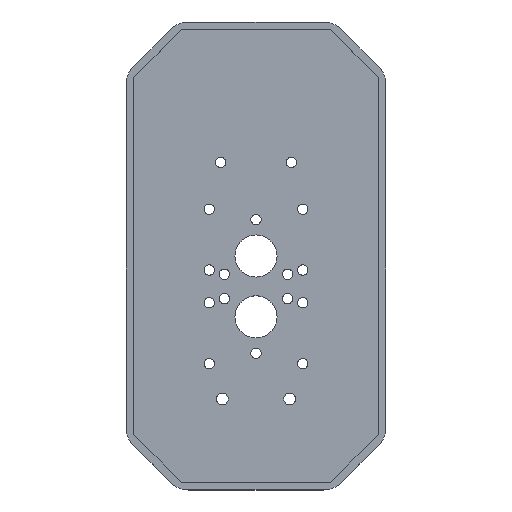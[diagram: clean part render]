
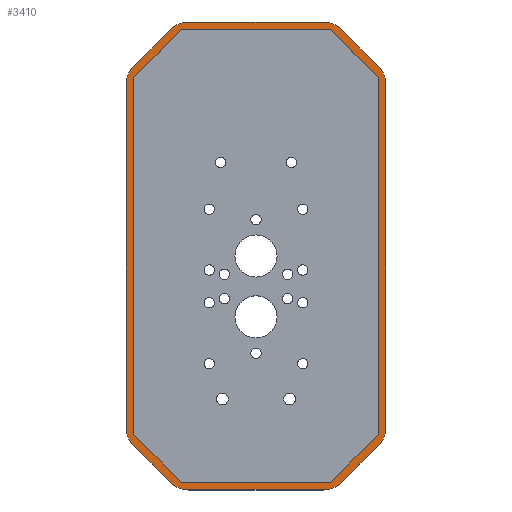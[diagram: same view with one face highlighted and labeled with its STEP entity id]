
A CAD part, top view. The second image highlights one B-rep face of the part: STEP entity #3410.
In plain terms, the highlighted planar face has unit normal (0, 0, 1).
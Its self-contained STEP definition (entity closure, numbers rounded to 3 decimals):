
#1089=DIRECTION('',(1.,0.,0.));
#1090=VECTOR('',#1089,28.757);
#1091=CARTESIAN_POINT('',(-14.379,43.5,4.5));
#1092=LINE('',#1091,#1090);
#1093=DIRECTION('',(0.707,0.707,0.));
#1094=VECTOR('',#1093,12.899);
#1095=CARTESIAN_POINT('',(-23.5,34.379,4.5));
#1096=LINE('',#1095,#1094);
#1097=DIRECTION('',(0.,1.,0.));
#1098=VECTOR('',#1097,68.757);
#1099=CARTESIAN_POINT('',(-23.5,-34.379,4.5));
#1100=LINE('',#1099,#1098);
#1101=DIRECTION('',(-0.707,0.707,0.));
#1102=VECTOR('',#1101,12.899);
#1103=CARTESIAN_POINT('',(-14.379,-43.5,4.5));
#1104=LINE('',#1103,#1102);
#1105=DIRECTION('',(-1.,0.,0.));
#1106=VECTOR('',#1105,28.757);
#1107=CARTESIAN_POINT('',(14.379,-43.5,4.5));
#1108=LINE('',#1107,#1106);
#1109=DIRECTION('',(-0.707,-0.707,0.));
#1110=VECTOR('',#1109,12.899);
#1111=CARTESIAN_POINT('',(23.5,-34.379,4.5));
#1112=LINE('',#1111,#1110);
#1113=DIRECTION('',(0.,-1.,0.));
#1114=VECTOR('',#1113,68.757);
#1115=CARTESIAN_POINT('',(23.5,34.379,4.5));
#1116=LINE('',#1115,#1114);
#1117=DIRECTION('',(0.707,-0.707,0.));
#1118=VECTOR('',#1117,12.899);
#1119=CARTESIAN_POINT('',(14.379,43.5,4.5));
#1120=LINE('',#1119,#1118);
#1121=CARTESIAN_POINT('',(-20.,32.929,4.5));
#1122=DIRECTION('',(0.,0.,1.));
#1123=DIRECTION('',(-0.707,0.707,0.));
#1124=AXIS2_PLACEMENT_3D('',#1121,#1122,#1123);
#1126=DIRECTION('',(-0.707,-0.707,0.));
#1127=VECTOR('',#1126,10.);
#1128=CARTESIAN_POINT('',(-16.464,43.536,4.5));
#1129=LINE('',#1128,#1127);
#1130=CARTESIAN_POINT('',(-12.929,40.,4.5));
#1131=DIRECTION('',(0.,0.,1.));
#1132=DIRECTION('',(0.,1.,0.));
#1133=AXIS2_PLACEMENT_3D('',#1130,#1131,#1132);
#1135=DIRECTION('',(-1.,0.,0.));
#1136=VECTOR('',#1135,25.858);
#1137=CARTESIAN_POINT('',(12.929,45.,4.5));
#1138=LINE('',#1137,#1136);
#1139=CARTESIAN_POINT('',(12.929,40.,4.5));
#1140=DIRECTION('',(0.,0.,1.));
#1141=DIRECTION('',(0.707,0.707,0.));
#1142=AXIS2_PLACEMENT_3D('',#1139,#1140,#1141);
#1144=DIRECTION('',(-0.707,0.707,0.));
#1145=VECTOR('',#1144,10.);
#1146=CARTESIAN_POINT('',(23.536,36.464,4.5));
#1147=LINE('',#1146,#1145);
#1148=CARTESIAN_POINT('',(20.,32.929,4.5));
#1149=DIRECTION('',(0.,0.,1.));
#1150=DIRECTION('',(1.,0.,0.));
#1151=AXIS2_PLACEMENT_3D('',#1148,#1149,#1150);
#1153=DIRECTION('',(0.,1.,0.));
#1154=VECTOR('',#1153,65.858);
#1155=CARTESIAN_POINT('',(25.,-32.929,4.5));
#1156=LINE('',#1155,#1154);
#1157=CARTESIAN_POINT('',(20.,-32.929,4.5));
#1158=DIRECTION('',(0.,0.,1.));
#1159=DIRECTION('',(0.707,-0.707,0.));
#1160=AXIS2_PLACEMENT_3D('',#1157,#1158,#1159);
#1162=DIRECTION('',(0.707,0.707,0.));
#1163=VECTOR('',#1162,10.);
#1164=CARTESIAN_POINT('',(16.464,-43.536,4.5));
#1165=LINE('',#1164,#1163);
#1166=CARTESIAN_POINT('',(12.929,-40.,4.5));
#1167=DIRECTION('',(0.,0.,1.));
#1168=DIRECTION('',(0.,-1.,0.));
#1169=AXIS2_PLACEMENT_3D('',#1166,#1167,#1168);
#1171=DIRECTION('',(1.,0.,0.));
#1172=VECTOR('',#1171,25.858);
#1173=CARTESIAN_POINT('',(-12.929,-45.,4.5));
#1174=LINE('',#1173,#1172);
#1175=CARTESIAN_POINT('',(-12.929,-40.,4.5));
#1176=DIRECTION('',(0.,0.,1.));
#1177=DIRECTION('',(-0.707,-0.707,0.));
#1178=AXIS2_PLACEMENT_3D('',#1175,#1176,#1177);
#1180=DIRECTION('',(0.707,-0.707,0.));
#1181=VECTOR('',#1180,10.);
#1182=CARTESIAN_POINT('',(-23.536,-36.464,4.5));
#1183=LINE('',#1182,#1181);
#1184=CARTESIAN_POINT('',(-20.,-32.929,4.5));
#1185=DIRECTION('',(0.,0.,1.));
#1186=DIRECTION('',(-1.,0.,0.));
#1187=AXIS2_PLACEMENT_3D('',#1184,#1185,#1186);
#1189=DIRECTION('',(0.,-1.,0.));
#1190=VECTOR('',#1189,65.858);
#1191=CARTESIAN_POINT('',(-25.,32.929,4.5));
#1192=LINE('',#1191,#1190);
#1553=CARTESIAN_POINT('',(-14.379,43.5,4.5));
#1554=CARTESIAN_POINT('',(14.379,43.5,4.5));
#1555=VERTEX_POINT('',#1553);
#1556=VERTEX_POINT('',#1554);
#1557=CARTESIAN_POINT('',(23.5,34.379,4.5));
#1558=VERTEX_POINT('',#1557);
#1559=CARTESIAN_POINT('',(23.5,-34.379,4.5));
#1560=VERTEX_POINT('',#1559);
#1561=CARTESIAN_POINT('',(14.379,-43.5,4.5));
#1562=VERTEX_POINT('',#1561);
#1563=CARTESIAN_POINT('',(-14.379,-43.5,4.5));
#1564=VERTEX_POINT('',#1563);
#1565=CARTESIAN_POINT('',(-23.5,-34.379,4.5));
#1566=VERTEX_POINT('',#1565);
#1567=CARTESIAN_POINT('',(-23.5,34.379,4.5));
#1568=VERTEX_POINT('',#1567);
#1585=CARTESIAN_POINT('',(-23.536,36.464,4.5));
#1586=CARTESIAN_POINT('',(-25.,32.929,4.5));
#1587=VERTEX_POINT('',#1585);
#1588=VERTEX_POINT('',#1586);
#1589=CARTESIAN_POINT('',(-12.929,45.,4.5));
#1590=CARTESIAN_POINT('',(-16.464,43.536,4.5));
#1591=VERTEX_POINT('',#1589);
#1592=VERTEX_POINT('',#1590);
#1593=CARTESIAN_POINT('',(16.464,43.536,4.5));
#1594=CARTESIAN_POINT('',(12.929,45.,4.5));
#1595=VERTEX_POINT('',#1593);
#1596=VERTEX_POINT('',#1594);
#1597=CARTESIAN_POINT('',(25.,32.929,4.5));
#1598=CARTESIAN_POINT('',(23.536,36.464,4.5));
#1599=VERTEX_POINT('',#1597);
#1600=VERTEX_POINT('',#1598);
#1601=CARTESIAN_POINT('',(23.536,-36.464,4.5));
#1602=CARTESIAN_POINT('',(25.,-32.929,4.5));
#1603=VERTEX_POINT('',#1601);
#1604=VERTEX_POINT('',#1602);
#1605=CARTESIAN_POINT('',(12.929,-45.,4.5));
#1606=CARTESIAN_POINT('',(16.464,-43.536,4.5));
#1607=VERTEX_POINT('',#1605);
#1608=VERTEX_POINT('',#1606);
#1609=CARTESIAN_POINT('',(-16.464,-43.536,4.5));
#1610=CARTESIAN_POINT('',(-12.929,-45.,4.5));
#1611=VERTEX_POINT('',#1609);
#1612=VERTEX_POINT('',#1610);
#1613=CARTESIAN_POINT('',(-25.,-32.929,4.5));
#1614=CARTESIAN_POINT('',(-23.536,-36.464,4.5));
#1615=VERTEX_POINT('',#1613);
#1616=VERTEX_POINT('',#1614);
#3361=CARTESIAN_POINT('',(0.,0.,4.5));
#3362=DIRECTION('',(0.,0.,1.));
#3363=DIRECTION('',(0.,-1.,0.));
#3364=AXIS2_PLACEMENT_3D('',#3361,#3362,#3363);
#3365=PLANE('',#3364);
#3367=ORIENTED_EDGE('',*,*,#3366,.F.);
#3369=ORIENTED_EDGE('',*,*,#3368,.F.);
#3371=ORIENTED_EDGE('',*,*,#3370,.F.);
#3373=ORIENTED_EDGE('',*,*,#3372,.F.);
#3375=ORIENTED_EDGE('',*,*,#3374,.F.);
#3377=ORIENTED_EDGE('',*,*,#3376,.F.);
#3379=ORIENTED_EDGE('',*,*,#3378,.F.);
#3381=ORIENTED_EDGE('',*,*,#3380,.F.);
#3383=ORIENTED_EDGE('',*,*,#3382,.F.);
#3385=ORIENTED_EDGE('',*,*,#3384,.F.);
#3387=ORIENTED_EDGE('',*,*,#3386,.F.);
#3389=ORIENTED_EDGE('',*,*,#3388,.F.);
#3391=ORIENTED_EDGE('',*,*,#3390,.F.);
#3393=ORIENTED_EDGE('',*,*,#3392,.F.);
#3395=ORIENTED_EDGE('',*,*,#3394,.F.);
#3397=ORIENTED_EDGE('',*,*,#3396,.F.);
#3398=EDGE_LOOP('',(#3367,#3369,#3371,#3373,#3375,#3377,#3379,#3381,#3383,#3385,
#3387,#3389,#3391,#3393,#3395,#3397));
#3399=FACE_OUTER_BOUND('',#3398,.F.);
#3400=ORIENTED_EDGE('',*,*,#3257,.F.);
#3401=ORIENTED_EDGE('',*,*,#3272,.F.);
#3402=ORIENTED_EDGE('',*,*,#3286,.F.);
#3403=ORIENTED_EDGE('',*,*,#3300,.F.);
#3404=ORIENTED_EDGE('',*,*,#3314,.F.);
#3405=ORIENTED_EDGE('',*,*,#3328,.F.);
#3406=ORIENTED_EDGE('',*,*,#3342,.F.);
#3407=ORIENTED_EDGE('',*,*,#3355,.F.);
#3408=EDGE_LOOP('',(#3400,#3401,#3402,#3403,#3404,#3405,#3406,#3407));
#3409=FACE_BOUND('',#3408,.F.);
#3410=ADVANCED_FACE('',(#3399,#3409),#3365,.T.);
#1125=CIRCLE('',#1124,5.);
#1134=CIRCLE('',#1133,5.);
#1143=CIRCLE('',#1142,5.);
#1152=CIRCLE('',#1151,5.);
#1161=CIRCLE('',#1160,5.);
#1170=CIRCLE('',#1169,5.);
#1179=CIRCLE('',#1178,5.);
#1188=CIRCLE('',#1187,5.);
#3257=EDGE_CURVE('',#1555,#1556,#1092,.T.);
#3272=EDGE_CURVE('',#1568,#1555,#1096,.T.);
#3286=EDGE_CURVE('',#1566,#1568,#1100,.T.);
#3300=EDGE_CURVE('',#1564,#1566,#1104,.T.);
#3314=EDGE_CURVE('',#1562,#1564,#1108,.T.);
#3328=EDGE_CURVE('',#1560,#1562,#1112,.T.);
#3342=EDGE_CURVE('',#1558,#1560,#1116,.T.);
#3355=EDGE_CURVE('',#1556,#1558,#1120,.T.);
#3366=EDGE_CURVE('',#1587,#1588,#1125,.T.);
#3368=EDGE_CURVE('',#1592,#1587,#1129,.T.);
#3370=EDGE_CURVE('',#1591,#1592,#1134,.T.);
#3372=EDGE_CURVE('',#1596,#1591,#1138,.T.);
#3374=EDGE_CURVE('',#1595,#1596,#1143,.T.);
#3376=EDGE_CURVE('',#1600,#1595,#1147,.T.);
#3378=EDGE_CURVE('',#1599,#1600,#1152,.T.);
#3380=EDGE_CURVE('',#1604,#1599,#1156,.T.);
#3382=EDGE_CURVE('',#1603,#1604,#1161,.T.);
#3384=EDGE_CURVE('',#1608,#1603,#1165,.T.);
#3386=EDGE_CURVE('',#1607,#1608,#1170,.T.);
#3388=EDGE_CURVE('',#1612,#1607,#1174,.T.);
#3390=EDGE_CURVE('',#1611,#1612,#1179,.T.);
#3392=EDGE_CURVE('',#1616,#1611,#1183,.T.);
#3394=EDGE_CURVE('',#1615,#1616,#1188,.T.);
#3396=EDGE_CURVE('',#1588,#1615,#1192,.T.);
